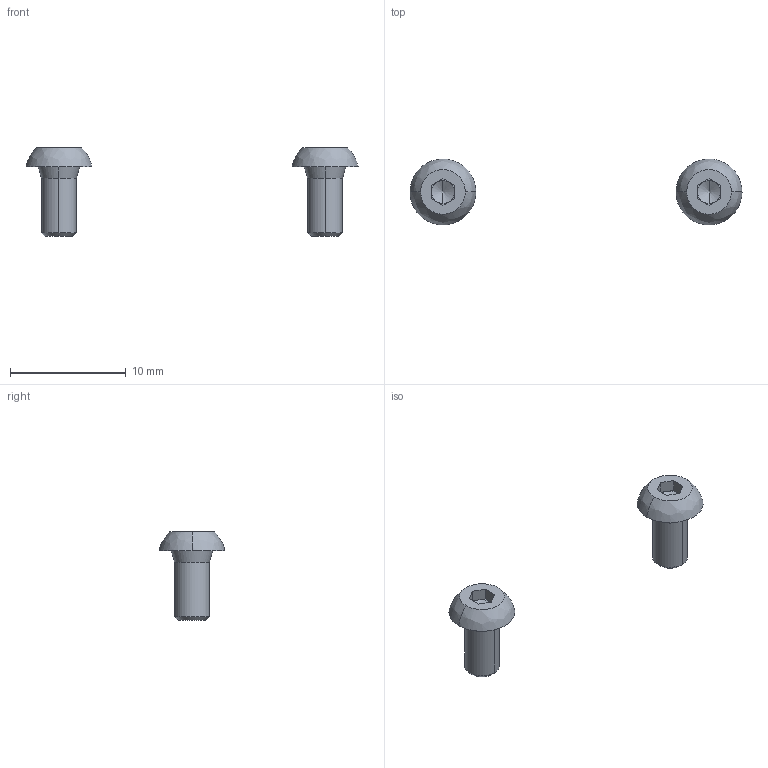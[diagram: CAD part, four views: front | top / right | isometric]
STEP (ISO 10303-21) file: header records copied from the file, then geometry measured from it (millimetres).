
FILE_DESCRIPTION(/* description */ (''),/* implementation_level */ '2;1');
FILE_NAME(/* name */ 'X-DRIV~4',/* time_stamp */ '2014-02-14T19:45:25+01:00',/* author */ (''),/* organization */ (''),/* preprocessor_version */ 'ST-DEVELOPER v14',/* originating_system */ '',/* authorisation */ '');
FILE_SCHEMA (('AUTOMOTIVE_DESIGN'));
Length unit declared in the file: millimetre
Products named in the file (2): Document; screw ISO7380, button, M3x06
Assembly tree (2 placements, depth 2):
  Document
    screw ISO7380, button, M3x06  x2
Bounding box: 28.7 x 5.7 x 7.65 mm (x, y, z)
Volume: 145 mm3; surface area: 255.9 mm2
Topology: 2 solids, 2 shells, 50 faces, 116 edges, 70 vertices
Faces by surface type: plane 30, bspline 20
Entity records: 1569 total; most frequent: CARTESIAN_POINT 771, B_SPLINE_CURVE_WITH_KNOTS 126, ORIENTED_EDGE 112, PCURVE 112, DEFINITIONAL_REPRESENTATION 112, SURFACE_CURVE 56, EDGE_CURVE 56, VERTEX_POINT 35
